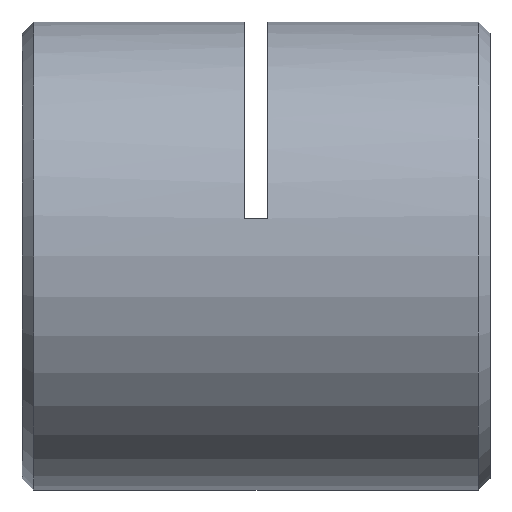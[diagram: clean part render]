
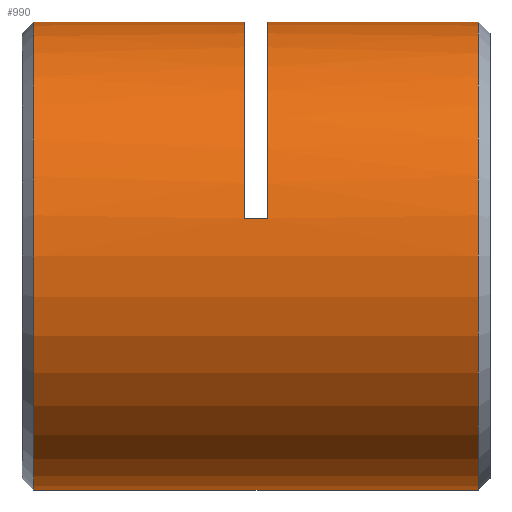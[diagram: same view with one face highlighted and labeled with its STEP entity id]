
A CAD part, left-side view. The second image highlights one B-rep face of the part: STEP entity #990.
In plain terms, the highlighted cylindrical face has radius 8 mm (diameter 16 mm), a partial arc.
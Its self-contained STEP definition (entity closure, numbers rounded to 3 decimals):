
#62 = VECTOR ( 'NONE', #1802, 1000. ) ;
#230 = AXIS2_PLACEMENT_3D ( 'NONE', #317, #2698, #2996 ) ;
#317 = CARTESIAN_POINT ( 'NONE',  ( 0., 0.25, 0. ) ) ;
#402 = ORIENTED_EDGE ( 'NONE', *, *, #2562, .F. ) ;
#531 = VERTEX_POINT ( 'NONE', #1429 ) ;
#546 = CARTESIAN_POINT ( 'NONE',  ( 0., 0.65, 0. ) ) ;
#623 = EDGE_CURVE ( 'NONE', #2493, #531, #1645, .T. ) ;
#637 = CARTESIAN_POINT ( 'NONE',  ( 0., 8.65, 8. ) ) ;
#670 = DIRECTION ( 'NONE',  ( 0., 0., 1. ) ) ;
#683 = EDGE_CURVE ( 'NONE', #2493, #1333, #3089, .T. ) ;
#738 = CIRCLE ( 'NONE', #2035, 8. ) ;
#746 = VECTOR ( 'NONE', #1726, 1000. ) ;
#762 = ORIENTED_EDGE ( 'NONE', *, *, #3757, .T. ) ;
#829 = DIRECTION ( 'NONE',  ( 0., 0., -1. ) ) ;
#932 = CARTESIAN_POINT ( 'NONE',  ( -7.897, 8.25, 1.28 ) ) ;
#960 = VERTEX_POINT ( 'NONE', #637 ) ;
#986 = VECTOR ( 'NONE', #3565, 1000. ) ;
#990 = ADVANCED_FACE ( 'NONE', ( #2494 ), #1501, .T. ) ;
#1006 = CARTESIAN_POINT ( 'NONE',  ( 0., 7.85, 0. ) ) ;
#1055 = DIRECTION ( 'NONE',  ( 0., -1., 0. ) ) ;
#1119 = DIRECTION ( 'NONE',  ( 0., 1., 0. ) ) ;
#1281 = DIRECTION ( 'NONE',  ( 0., 1., 0. ) ) ;
#1305 = LINE ( 'NONE', #3215, #1664 ) ;
#1333 = VERTEX_POINT ( 'NONE', #1754 ) ;
#1335 = ORIENTED_EDGE ( 'NONE', *, *, #683, .F. ) ;
#1340 = ORIENTED_EDGE ( 'NONE', *, *, #3115, .T. ) ;
#1429 = CARTESIAN_POINT ( 'NONE',  ( -7.897, 8.65, 1.28 ) ) ;
#1501 = CYLINDRICAL_SURFACE ( 'NONE', #230, 8. ) ;
#1577 = DIRECTION ( 'NONE',  ( 0., 0., 1. ) ) ;
#1613 = DIRECTION ( 'NONE',  ( 0., 1., 0. ) ) ;
#1645 = LINE ( 'NONE', #932, #62 ) ;
#1664 = VECTOR ( 'NONE', #1119, 1000. ) ;
#1726 = DIRECTION ( 'NONE',  ( 0., 1., 0. ) ) ;
#1744 = CARTESIAN_POINT ( 'NONE',  ( 0., 0.65, 8. ) ) ;
#1754 = CARTESIAN_POINT ( 'NONE',  ( 0., 7.85, 8. ) ) ;
#1802 = DIRECTION ( 'NONE',  ( 0., 1., 0. ) ) ;
#1841 = EDGE_CURVE ( 'NONE', #2693, #1333, #3589, .T. ) ;
#1931 = AXIS2_PLACEMENT_3D ( 'NONE', #1936, #1055, #829 ) ;
#1936 = CARTESIAN_POINT ( 'NONE',  ( 0., 15.85, 0. ) ) ;
#2035 = AXIS2_PLACEMENT_3D ( 'NONE', #3064, #1613, #1577 ) ;
#2135 = ORIENTED_EDGE ( 'NONE', *, *, #1841, .T. ) ;
#2312 = ORIENTED_EDGE ( 'NONE', *, *, #3226, .T. ) ;
#2366 = CARTESIAN_POINT ( 'NONE',  ( 0., 15.85, -8. ) ) ;
#2368 = VERTEX_POINT ( 'NONE', #2366 ) ;
#2370 = DIRECTION ( 'NONE',  ( 0., 0., 1. ) ) ;
#2375 = CARTESIAN_POINT ( 'NONE',  ( -7.897, 7.85, 1.28 ) ) ;
#2378 = CIRCLE ( 'NONE', #1931, 8. ) ;
#2493 = VERTEX_POINT ( 'NONE', #2375 ) ;
#2494 = FACE_OUTER_BOUND ( 'NONE', #3653, .T. ) ;
#2562 = EDGE_CURVE ( 'NONE', #2593, #2368, #1305, .T. ) ;
#2593 = VERTEX_POINT ( 'NONE', #3172 ) ;
#2643 = DIRECTION ( 'NONE',  ( 0., 1., 0. ) ) ;
#2648 = EDGE_CURVE ( 'NONE', #3202, #2368, #2378, .T. ) ;
#2693 = VERTEX_POINT ( 'NONE', #1744 ) ;
#2698 = DIRECTION ( 'NONE',  ( 0., 1., 0. ) ) ;
#2705 = CIRCLE ( 'NONE', #3563, 8. ) ;
#2807 = LINE ( 'NONE', #2975, #986 ) ;
#2975 = CARTESIAN_POINT ( 'NONE',  ( 0., 0.25, 8. ) ) ;
#2996 = DIRECTION ( 'NONE',  ( 0., 0., 1. ) ) ;
#3064 = CARTESIAN_POINT ( 'NONE',  ( 0., 8.65, 0. ) ) ;
#3089 = CIRCLE ( 'NONE', #3794, 8. ) ;
#3115 = EDGE_CURVE ( 'NONE', #2593, #2693, #2705, .T. ) ;
#3172 = CARTESIAN_POINT ( 'NONE',  ( 0., 0.65, -8. ) ) ;
#3185 = ORIENTED_EDGE ( 'NONE', *, *, #2648, .T. ) ;
#3202 = VERTEX_POINT ( 'NONE', #3528 ) ;
#3215 = CARTESIAN_POINT ( 'NONE',  ( 0., 0.25, -8. ) ) ;
#3226 = EDGE_CURVE ( 'NONE', #960, #3202, #2807, .T. ) ;
#3300 = ORIENTED_EDGE ( 'NONE', *, *, #623, .T. ) ;
#3528 = CARTESIAN_POINT ( 'NONE',  ( 0., 15.85, 8. ) ) ;
#3548 = CARTESIAN_POINT ( 'NONE',  ( 0., 0.25, 8. ) ) ;
#3563 = AXIS2_PLACEMENT_3D ( 'NONE', #546, #2643, #2370 ) ;
#3565 = DIRECTION ( 'NONE',  ( 0., 1., 0. ) ) ;
#3589 = LINE ( 'NONE', #3548, #746 ) ;
#3653 = EDGE_LOOP ( 'NONE', ( #402, #1340, #2135, #1335, #3300, #762, #2312, #3185 ) ) ;
#3757 = EDGE_CURVE ( 'NONE', #531, #960, #738, .T. ) ;
#3794 = AXIS2_PLACEMENT_3D ( 'NONE', #1006, #1281, #670 ) ;
